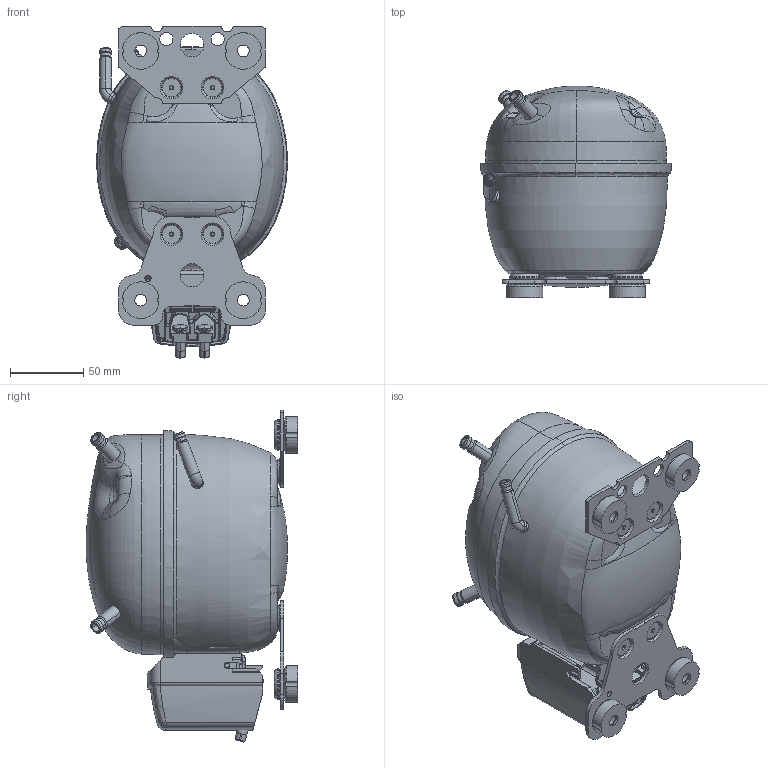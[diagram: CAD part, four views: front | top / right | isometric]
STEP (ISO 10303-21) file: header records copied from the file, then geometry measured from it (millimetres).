
FILE_DESCRIPTION((''),'2;1');
FILE_NAME('101H0360_EMPTY_ASM','2024-01-15T15:35:06',('SKHC0505'),(''),'CREO PARAMETRIC BY PTC INC, 2022162','CREO PARAMETRIC BY PTC INC, 2022162','');
FILE_SCHEMA(('AP242_MANAGED_MODEL_BASED_3D_ENGINEERING_MIM_LF { 1 0 10303 442 1 1 4 }'));
Products named in the file (27): 101B0401; 117-3617_BODY; 117-3617_PINS; 117-3617_GLASS_FUSED; 117-3617_ASM; 101B0501; 102B1507; 101B0651; 103N0490; 101B0604; 101B6003; 101B0010_ASM; 102B1730BEND2; 101B0628; 101B0004_ASM; 101B0303_AF0; 101B0804_AF0; 101B0804; 101B0153_ASM; 103N0491; 118-3661; 103N0489; 103N0328; 103N0444; 103N0126_ASM; 103N1010_ASSEMBLED_ASM; 101H0360_EMPTY_ASM
Assembly tree (37 placements, depth 5):
  101H0360_EMPTY_ASM
    101B0004_ASM
      101B0010_ASM
        101B0401
        117-3617_ASM
          117-3617_BODY
          117-3617_PINS  x3
          117-3617_GLASS_FUSED  x3
        101B0501
        102B1507
        101B0651  x4
        103N0490
        101B0604
        101B6003
      102B1730BEND2
      101B0628
    101B0153_ASM
      101B0303_AF0
      101B0804_AF0
      101B0804
    103N0491
    118-3661  x4
    103N1010_ASSEMBLED_ASM
      103N0489
      103N0126_ASM
        103N0328
        103N0444  x2
Bounding box: 130.31 x 144.29 x 226.43 mm (x, y, z)
Volume: 307927.8 mm3; surface area: 236769.2 mm2
Topology: 31 solids, 35 shells, 2317 faces, 5695 edges, 3450 vertices
Faces by surface type: cylinder 694, plane 599, bspline 488, torus 251, cone 160, sphere 109, revolution 12, extrusion 4
Entity records: 157201 total; most frequent: CARTESIAN_POINT 96923, ORIENTED_EDGE 10280, DIRECTION 8593, EDGE_CURVE 5146, PRESENTATION_STYLE_ASSIGNMENT 3981, STYLED_ITEM 3793, CURVE_STYLE 3781, AXIS2_PLACEMENT_3D 3298
